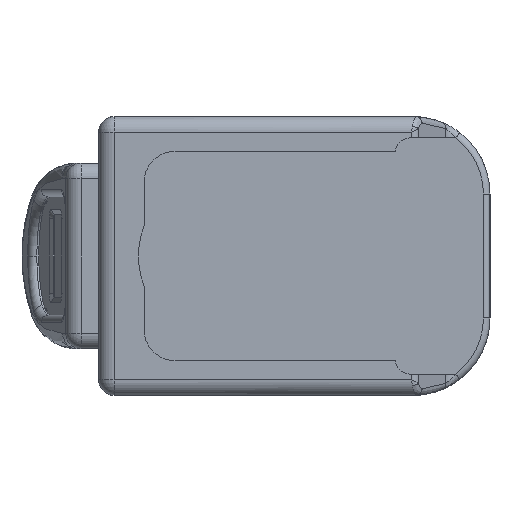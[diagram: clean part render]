
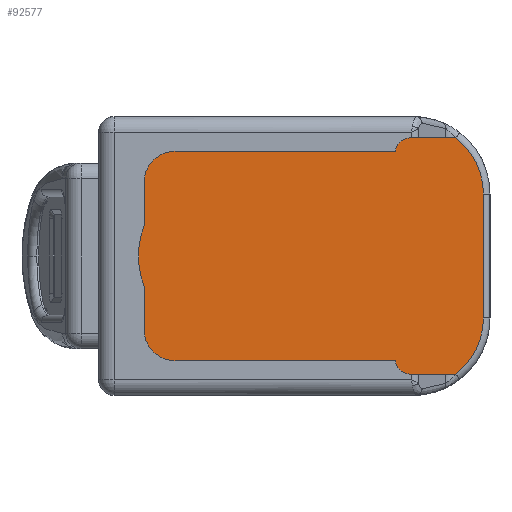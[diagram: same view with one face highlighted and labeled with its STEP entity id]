
A CAD part, left-side view. The second image highlights one B-rep face of the part: STEP entity #92577.
In plain terms, the highlighted planar face has unit normal (-1, 0, 0).
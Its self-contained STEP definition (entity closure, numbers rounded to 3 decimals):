
#1744 = DIRECTION ( 'NONE',  ( 0., 0., 1. ) ) ;
#4277 = AXIS2_PLACEMENT_3D ( 'NONE', #84497, #86268, #104365 ) ;
#5809 = EDGE_CURVE ( 'NONE', #8863, #64935, #90967, .T. ) ;
#6619 = EDGE_CURVE ( 'NONE', #23866, #25763, #50806, .T. ) ;
#8404 = VECTOR ( 'NONE', #44051, 1000. ) ;
#8863 = VERTEX_POINT ( 'NONE', #88320 ) ;
#9516 = EDGE_CURVE ( 'NONE', #64935, #24421, #52093, .T. ) ;
#11309 = CARTESIAN_POINT ( 'NONE',  ( -329.6, 11.05, 30.5 ) ) ;
#11353 = VECTOR ( 'NONE', #105022, 1000. ) ;
#11540 = ORIENTED_EDGE ( 'NONE', *, *, #39716, .F. ) ;
#14162 = VERTEX_POINT ( 'NONE', #24276 ) ;
#20761 = FACE_OUTER_BOUND ( 'NONE', #81204, .T. ) ;
#23866 = VERTEX_POINT ( 'NONE', #11309 ) ;
#23978 = CARTESIAN_POINT ( 'NONE',  ( -329.6, -48.5, 16. ) ) ;
#24276 = CARTESIAN_POINT ( 'NONE',  ( -329.6, -66.8, -16. ) ) ;
#24421 = VERTEX_POINT ( 'NONE', #28914 ) ;
#25341 = VERTEX_POINT ( 'NONE', #46117 ) ;
#25763 = VERTEX_POINT ( 'NONE', #54113 ) ;
#28011 = EDGE_CURVE ( 'NONE', #87660, #8863, #112229, .T. ) ;
#28914 = CARTESIAN_POINT ( 'NONE',  ( -329.6, 20.8, 20.75 ) ) ;
#29870 = ORIENTED_EDGE ( 'NONE', *, *, #117204, .T. ) ;
#30685 = AXIS2_PLACEMENT_3D ( 'NONE', #97372, #71402, #78090 ) ;
#30789 = VECTOR ( 'NONE', #33008, 1000. ) ;
#33008 = DIRECTION ( 'NONE',  ( 0., -1., 0. ) ) ;
#33159 = AXIS2_PLACEMENT_3D ( 'NONE', #66273, #110825, #37916 ) ;
#34018 = ORIENTED_EDGE ( 'NONE', *, *, #70817, .T. ) ;
#35610 = CARTESIAN_POINT ( 'NONE',  ( -329.6, -59.648, 27. ) ) ;
#36514 = AXIS2_PLACEMENT_3D ( 'NONE', #78487, #70073, #97779 ) ;
#36942 = AXIS2_PLACEMENT_3D ( 'NONE', #86499, #111803, #104001 ) ;
#37535 = CARTESIAN_POINT ( 'NONE',  ( -329.6, 20.8, -30.5 ) ) ;
#37916 = DIRECTION ( 'NONE',  ( 0., -1., 0. ) ) ;
#38454 = CARTESIAN_POINT ( 'NONE',  ( -329.6, -59.648, -30.512 ) ) ;
#39696 = CARTESIAN_POINT ( 'NONE',  ( -329.6, -66.8, 27. ) ) ;
#39716 = EDGE_CURVE ( 'NONE', #76911, #87660, #92879, .T. ) ;
#40090 = PLANE ( 'NONE',  #36942 ) ;
#40342 = LINE ( 'NONE', #115569, #30789 ) ;
#44051 = DIRECTION ( 'NONE',  ( 0., 0., -1. ) ) ;
#46117 = CARTESIAN_POINT ( 'NONE',  ( -329.6, -59.648, -30.5 ) ) ;
#47351 = CARTESIAN_POINT ( 'NONE',  ( -329.6, -59.648, 30.512 ) ) ;
#47899 = VERTEX_POINT ( 'NONE', #117939 ) ;
#48614 = DIRECTION ( 'NONE',  ( 0., -1., 0. ) ) ;
#50806 = LINE ( 'NONE', #88220, #65841 ) ;
#52093 = LINE ( 'NONE', #114242, #111459 ) ;
#53778 = CIRCLE ( 'NONE', #36514, 9.75 ) ;
#54113 = CARTESIAN_POINT ( 'NONE',  ( -329.6, -59.648, 30.5 ) ) ;
#54294 = CARTESIAN_POINT ( 'NONE',  ( -329.6, 20.8, 7.901 ) ) ;
#54631 = VERTEX_POINT ( 'NONE', #38454 ) ;
#55186 = ORIENTED_EDGE ( 'NONE', *, *, #74830, .T. ) ;
#56414 = EDGE_CURVE ( 'NONE', #25341, #54631, #67092, .T. ) ;
#60809 = DIRECTION ( 'NONE',  ( -1., 0., 0. ) ) ;
#64935 = VERTEX_POINT ( 'NONE', #54294 ) ;
#65841 = VECTOR ( 'NONE', #48614, 1000. ) ;
#65881 = DIRECTION ( 'NONE',  ( 0., 0., 1. ) ) ;
#66273 = CARTESIAN_POINT ( 'NONE',  ( -329.6, 0., 0. ) ) ;
#67092 = LINE ( 'NONE', #95382, #11353 ) ;
#68422 = VECTOR ( 'NONE', #1744, 1000. ) ;
#69296 = ORIENTED_EDGE ( 'NONE', *, *, #9516, .F. ) ;
#70073 = DIRECTION ( 'NONE',  ( -1., 0., 0. ) ) ;
#70817 = EDGE_CURVE ( 'NONE', #54631, #14162, #78880, .T. ) ;
#71402 = DIRECTION ( 'NONE',  ( -1., 0., 0. ) ) ;
#73540 = ORIENTED_EDGE ( 'NONE', *, *, #111757, .T. ) ;
#74830 = EDGE_CURVE ( 'NONE', #76911, #25341, #40342, .T. ) ;
#76911 = VERTEX_POINT ( 'NONE', #92479 ) ;
#78090 = DIRECTION ( 'NONE',  ( 0., 0., -1. ) ) ;
#78487 = CARTESIAN_POINT ( 'NONE',  ( -329.6, 11.05, 20.75 ) ) ;
#78880 = CIRCLE ( 'NONE', #30685, 18.3 ) ;
#81204 = EDGE_LOOP ( 'NONE', ( #69296, #95002, #110708, #11540, #55186, #115978, #34018, #29870, #73540, #82749, #104099, #95234 ) ) ;
#81480 = LINE ( 'NONE', #35610, #8404 ) ;
#82749 = ORIENTED_EDGE ( 'NONE', *, *, #115918, .T. ) ;
#84497 = CARTESIAN_POINT ( 'NONE',  ( -329.6, 11.05, -20.75 ) ) ;
#86268 = DIRECTION ( 'NONE',  ( 1., 0., 0. ) ) ;
#86499 = CARTESIAN_POINT ( 'NONE',  ( -329.6, -68.5, 27. ) ) ;
#87660 = VERTEX_POINT ( 'NONE', #105443 ) ;
#88220 = CARTESIAN_POINT ( 'NONE',  ( -329.6, 20.8, 30.5 ) ) ;
#88320 = CARTESIAN_POINT ( 'NONE',  ( -329.6, 20.8, -7.901 ) ) ;
#89528 = EDGE_CURVE ( 'NONE', #23866, #24421, #53778, .T. ) ;
#90967 = CIRCLE ( 'NONE', #33159, 22.25 ) ;
#92479 = CARTESIAN_POINT ( 'NONE',  ( -329.6, 11.05, -30.5 ) ) ;
#92577 = ADVANCED_FACE ( 'NONE', ( #20761 ), #40090, .T. ) ;
#92879 = CIRCLE ( 'NONE', #4277, 9.75 ) ;
#94677 = AXIS2_PLACEMENT_3D ( 'NONE', #23978, #60809, #97614 ) ;
#95002 = ORIENTED_EDGE ( 'NONE', *, *, #5809, .F. ) ;
#95126 = LINE ( 'NONE', #39696, #68422 ) ;
#95234 = ORIENTED_EDGE ( 'NONE', *, *, #89528, .T. ) ;
#95382 = CARTESIAN_POINT ( 'NONE',  ( -329.6, -59.648, 27. ) ) ;
#97372 = CARTESIAN_POINT ( 'NONE',  ( -329.6, -48.5, -16. ) ) ;
#97614 = DIRECTION ( 'NONE',  ( 0., 0., -1. ) ) ;
#97779 = DIRECTION ( 'NONE',  ( 0., 0., -1. ) ) ;
#98239 = VECTOR ( 'NONE', #65881, 1000. ) ;
#104001 = DIRECTION ( 'NONE',  ( 0., 0., -1. ) ) ;
#104099 = ORIENTED_EDGE ( 'NONE', *, *, #6619, .F. ) ;
#104365 = DIRECTION ( 'NONE',  ( 0., 0., 1. ) ) ;
#105022 = DIRECTION ( 'NONE',  ( 0., 0., -1. ) ) ;
#105443 = CARTESIAN_POINT ( 'NONE',  ( -329.6, 20.8, -20.75 ) ) ;
#110663 = VERTEX_POINT ( 'NONE', #47351 ) ;
#110708 = ORIENTED_EDGE ( 'NONE', *, *, #28011, .F. ) ;
#110825 = DIRECTION ( 'NONE',  ( 1., 0., 0. ) ) ;
#111459 = VECTOR ( 'NONE', #116004, 1000. ) ;
#111757 = EDGE_CURVE ( 'NONE', #47899, #110663, #115765, .T. ) ;
#111803 = DIRECTION ( 'NONE',  ( -1., 0., 0. ) ) ;
#112229 = LINE ( 'NONE', #37535, #98239 ) ;
#114242 = CARTESIAN_POINT ( 'NONE',  ( -329.6, 20.8, -30.5 ) ) ;
#115569 = CARTESIAN_POINT ( 'NONE',  ( -329.6, 20.8, -30.5 ) ) ;
#115765 = CIRCLE ( 'NONE', #94677, 18.3 ) ;
#115918 = EDGE_CURVE ( 'NONE', #110663, #25763, #81480, .T. ) ;
#115978 = ORIENTED_EDGE ( 'NONE', *, *, #56414, .T. ) ;
#116004 = DIRECTION ( 'NONE',  ( 0., 0., 1. ) ) ;
#117204 = EDGE_CURVE ( 'NONE', #14162, #47899, #95126, .T. ) ;
#117939 = CARTESIAN_POINT ( 'NONE',  ( -329.6, -66.8, 16. ) ) ;
